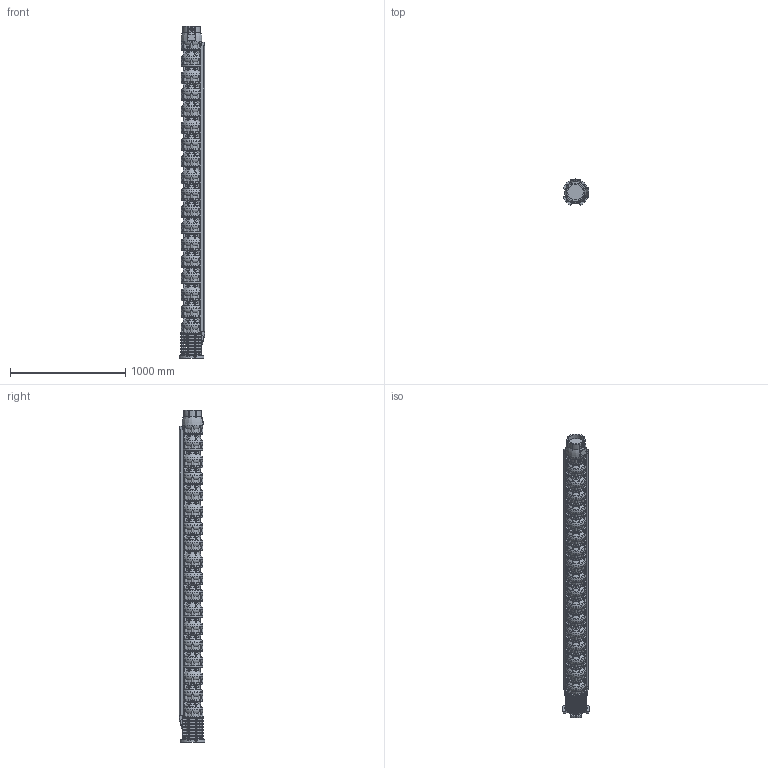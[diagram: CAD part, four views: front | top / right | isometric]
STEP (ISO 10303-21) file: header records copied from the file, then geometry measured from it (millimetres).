
FILE_DESCRIPTION(/* description */ ('Unknown'),/* implementation_level */ '2;1');
FILE_NAME(/* name */ 'VSI134-17_WR_M10-50_SME',/* time_stamp */ '2023-09-14T14:54:29+02:00',/* author */ ('Unknown'),/* organization */ ('Unknown'),/* preprocessor_version */ 'ST-DEVELOPER v18.102',/* originating_system */ 'Solid Edge',/* authorisation */ 'Unknown');
FILE_SCHEMA (('AUTOMOTIVE_DESIGN {1 0 10303 214 3 1 1}'));
Products named in the file (12): VSI134-17_WR_M10-50_SME; VSI134_testata; VSI134_diffusore; VSI134_supporto_8×8; VSI134_adattatore_8×10; VSI134_filtro_A; VSI134_filtro_B; VSI134_terminale_top_copricavo_medio; VSI134_terminale_bottom_copricavo_medio; MID 134-17; M5X8_UNI7687; VSI134_giunto_8×10
Assembly tree (41 placements, depth 2):
  VSI134-17_WR_M10-50_SME
    VSI134_testata
    VSI134_diffusore  x17
    VSI134_supporto_8×8
    VSI134_adattatore_8×10
    VSI134_filtro_A
    VSI134_filtro_B
    VSI134_terminale_top_copricavo_medio  x2
    VSI134_terminale_bottom_copricavo_medio  x2
    MID 134-17  x2
    M5X8_UNI7687  x12
    VSI134_giunto_8×10
Bounding box: 221.78 x 221.78 x 2883 mm (x, y, z)
Volume: 54196656.2 mm3; surface area: 4850744.4 mm2
Topology: 80 solids, 82 shells, 5427 faces, 15261 edges, 10193 vertices
Faces by surface type: plane 3822, torus 787, cylinder 699, cone 74, bspline 31, sphere 14
Full cylindrical faces by diameter (mm): 2.4 x2, 3 x2, 4.2 x16, 5 x12, 5.5 x8, 14 x4, 16 x4, 17.5 x4, 26 x1, 30 x4, 44 x1, 65 x1, 69 x1, 74 x1, 84 x1, 98 x1, 127 x2, 135.472 x1, 157 x1, 182 x18
Entity records: 85411 total; most frequent: CARTESIAN_POINT 18306, ORIENTED_EDGE 13946, DIRECTION 13476, EDGE_CURVE 6973, VERTEX_POINT 4707, AXIS2_PLACEMENT_3D 4616, LINE 4244, VECTOR 4244
